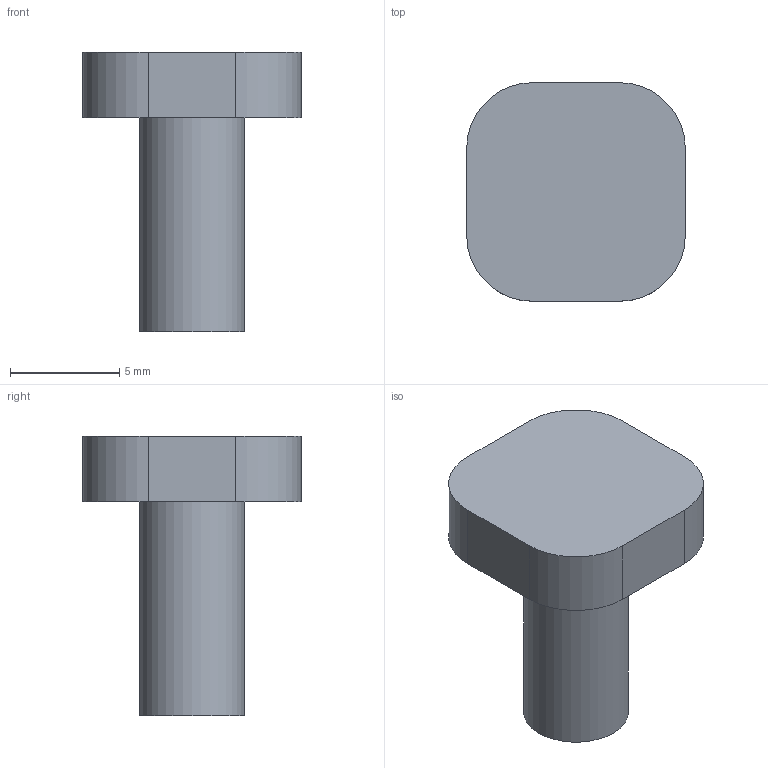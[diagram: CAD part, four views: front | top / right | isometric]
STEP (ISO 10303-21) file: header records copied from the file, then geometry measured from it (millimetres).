
FILE_DESCRIPTION(('Open CASCADE Model'),'2;1');
FILE_NAME('Open CASCADE Shape Model','2026-09-13T15:24:12',('Author'),( 'Open CASCADE'),'Open CASCADE STEP processor 7.9','build123d', 'Unknown');
FILE_SCHEMA(('AUTOMOTIVE_DESIGN { 1 0 10303 214 1 1 1 1 }'));
Length unit declared in the file: millimetre
Products named in the file (2): =>[0:1:1:2]; COMPOUND
Assembly tree (1 placements, depth 2):
  =>[0:1:1:2]
    COMPOUND
Bounding box: 10 x 10 x 12.8 mm (x, y, z)
Volume: 454.2 mm3; surface area: 436.9 mm2
Topology: 1 solids, 1 shells, 12 faces, 27 edges, 18 vertices
Faces by surface type: plane 7, cylinder 5
Full cylindrical faces by diameter (mm): 4.8 x1
Entity records: 720 total; most frequent: DIRECTION 119, CARTESIAN_POINT 113, LINE 61, VECTOR 61, ORIENTED_EDGE 54, PCURVE 54, DEFINITIONAL_REPRESENTATION 54, EDGE_CURVE 27
